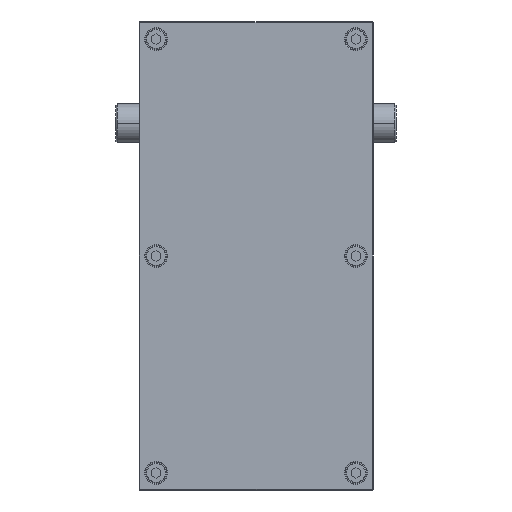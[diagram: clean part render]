
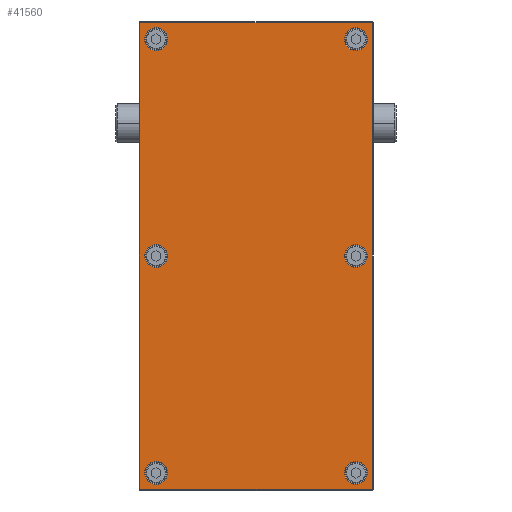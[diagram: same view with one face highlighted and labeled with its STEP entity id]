
A CAD part, front view. The second image highlights one B-rep face of the part: STEP entity #41560.
In plain terms, the highlighted planar face has unit normal (0, -1, 0).
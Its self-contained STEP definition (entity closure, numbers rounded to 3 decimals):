
#40119=CARTESIAN_POINT('',(149.,-9.,-74.));
#40120=DIRECTION('',(0.,-1.,0.));
#40121=DIRECTION('',(0.,0.,-1.));
#40122=AXIS2_PLACEMENT_3D('',#40119,#40120,#40121);
#40124=DIRECTION('',(1.,0.,0.));
#40125=VECTOR('',#40124,298.);
#40126=CARTESIAN_POINT('',(-149.,-9.,
-74.5));
#40127=LINE('',#40126,#40125);
#40128=CARTESIAN_POINT('',(-149.,-9.,-74.));
#40129=DIRECTION('',(0.,-1.,0.));
#40130=DIRECTION('',(-1.,0.,0.));
#40131=AXIS2_PLACEMENT_3D('',#40128,#40129,#40130);
#40133=DIRECTION('',(0.,0.,-1.));
#40134=VECTOR('',#40133,148.);
#40135=CARTESIAN_POINT('',(-149.5,-9.,74.));
#40136=LINE('',#40135,#40134);
#40137=CARTESIAN_POINT('',(-149.,-9.,74.));
#40138=DIRECTION('',(0.,-1.,0.));
#40139=DIRECTION('',(0.,0.,1.));
#40140=AXIS2_PLACEMENT_3D('',#40137,#40138,#40139);
#40142=DIRECTION('',(-1.,0.,0.));
#40143=VECTOR('',#40142,298.);
#40144=CARTESIAN_POINT('',(149.,-9.,
74.5));
#40145=LINE('',#40144,#40143);
#40146=CARTESIAN_POINT('',(149.,-9.,74.));
#40147=DIRECTION('',(0.,-1.,0.));
#40148=DIRECTION('',(1.,0.,0.));
#40149=AXIS2_PLACEMENT_3D('',#40146,#40147,#40148);
#40151=DIRECTION('',(0.,0.,1.));
#40152=VECTOR('',#40151,148.);
#40153=CARTESIAN_POINT('',(149.5,-9.,-74.));
#40154=LINE('',#40153,#40152);
#40155=CARTESIAN_POINT('',(-139.,-9.,-64.));
#40156=DIRECTION('',(0.,1.,0.));
#40157=DIRECTION('',(1.,0.,0.));
#40158=AXIS2_PLACEMENT_3D('',#40155,#40156,#40157);
#40160=CARTESIAN_POINT('',(-139.,-9.,-64.));
#40161=DIRECTION('',(0.,1.,0.));
#40162=DIRECTION('',(-1.,0.,0.));
#40163=AXIS2_PLACEMENT_3D('',#40160,#40161,#40162);
#40165=CARTESIAN_POINT('',(0.,-9.,-64.));
#40166=DIRECTION('',(0.,1.,0.));
#40167=DIRECTION('',(1.,0.,0.));
#40168=AXIS2_PLACEMENT_3D('',#40165,#40166,#40167);
#40170=CARTESIAN_POINT('',(0.,-9.,-64.));
#40171=DIRECTION('',(0.,1.,0.));
#40172=DIRECTION('',(-1.,0.,0.));
#40173=AXIS2_PLACEMENT_3D('',#40170,#40171,#40172);
#40175=CARTESIAN_POINT('',(139.,-9.,-64.));
#40176=DIRECTION('',(0.,1.,0.));
#40177=DIRECTION('',(1.,0.,0.));
#40178=AXIS2_PLACEMENT_3D('',#40175,#40176,#40177);
#40180=CARTESIAN_POINT('',(139.,-9.,-64.));
#40181=DIRECTION('',(0.,1.,0.));
#40182=DIRECTION('',(-1.,0.,0.));
#40183=AXIS2_PLACEMENT_3D('',#40180,#40181,#40182);
#40185=CARTESIAN_POINT('',(139.,-9.,64.));
#40186=DIRECTION('',(0.,1.,0.));
#40187=DIRECTION('',(1.,0.,0.));
#40188=AXIS2_PLACEMENT_3D('',#40185,#40186,#40187);
#40190=CARTESIAN_POINT('',(139.,-9.,64.));
#40191=DIRECTION('',(0.,1.,0.));
#40192=DIRECTION('',(-1.,0.,0.));
#40193=AXIS2_PLACEMENT_3D('',#40190,#40191,#40192);
#40195=CARTESIAN_POINT('',(0.,-9.,64.));
#40196=DIRECTION('',(0.,1.,0.));
#40197=DIRECTION('',(1.,0.,0.));
#40198=AXIS2_PLACEMENT_3D('',#40195,#40196,#40197);
#40200=CARTESIAN_POINT('',(0.,-9.,64.));
#40201=DIRECTION('',(0.,1.,0.));
#40202=DIRECTION('',(-1.,0.,0.));
#40203=AXIS2_PLACEMENT_3D('',#40200,#40201,#40202);
#40205=CARTESIAN_POINT('',(-139.,-9.,64.));
#40206=DIRECTION('',(0.,1.,0.));
#40207=DIRECTION('',(1.,0.,0.));
#40208=AXIS2_PLACEMENT_3D('',#40205,#40206,#40207);
#40210=CARTESIAN_POINT('',(-139.,-9.,64.));
#40211=DIRECTION('',(0.,1.,0.));
#40212=DIRECTION('',(-1.,0.,0.));
#40213=AXIS2_PLACEMENT_3D('',#40210,#40211,#40212);
#41289=CARTESIAN_POINT('',(149.,-9.,-74.5));
#41290=CARTESIAN_POINT('',(149.5,-9.,-74.));
#41291=VERTEX_POINT('',#41289);
#41292=VERTEX_POINT('',#41290);
#41297=CARTESIAN_POINT('',(149.5,-9.,
74.));
#41298=VERTEX_POINT('',#41297);
#41301=CARTESIAN_POINT('',(149.,-9.,74.5));
#41302=VERTEX_POINT('',#41301);
#41305=CARTESIAN_POINT('',(-149.,-9.,
74.5));
#41306=VERTEX_POINT('',#41305);
#41309=CARTESIAN_POINT('',(-149.5,-9.,74.));
#41310=VERTEX_POINT('',#41309);
#41313=CARTESIAN_POINT('',(-149.5,-9.,
-74.));
#41314=VERTEX_POINT('',#41313);
#41317=CARTESIAN_POINT('',(-149.,-9.,-74.5));
#41318=VERTEX_POINT('',#41317);
#41345=CARTESIAN_POINT('',(-131.7,-9.,-64.));
#41346=CARTESIAN_POINT('',(-146.3,-9.,-64.));
#41347=VERTEX_POINT('',#41345);
#41348=VERTEX_POINT('',#41346);
#41361=CARTESIAN_POINT('',(7.3,-9.,-64.));
#41362=CARTESIAN_POINT('',(-7.3,-9.,-64.));
#41363=VERTEX_POINT('',#41361);
#41364=VERTEX_POINT('',#41362);
#41385=CARTESIAN_POINT('',(146.3,-9.,-64.));
#41386=CARTESIAN_POINT('',(131.7,-9.,-64.));
#41387=VERTEX_POINT('',#41385);
#41388=VERTEX_POINT('',#41386);
#41401=CARTESIAN_POINT('',(146.3,-9.,64.));
#41402=CARTESIAN_POINT('',(131.7,-9.,64.));
#41403=VERTEX_POINT('',#41401);
#41404=VERTEX_POINT('',#41402);
#41409=CARTESIAN_POINT('',(7.3,-9.,64.));
#41410=CARTESIAN_POINT('',(-7.3,-9.,64.));
#41411=VERTEX_POINT('',#41409);
#41412=VERTEX_POINT('',#41410);
#41433=CARTESIAN_POINT('',(-131.7,-9.,64.));
#41434=CARTESIAN_POINT('',(-146.3,-9.,64.));
#41435=VERTEX_POINT('',#41433);
#41436=VERTEX_POINT('',#41434);
#41501=CARTESIAN_POINT('',(0.,-9.,0.));
#41502=DIRECTION('',(0.,1.,0.));
#41503=DIRECTION('',(1.,0.,0.));
#41504=AXIS2_PLACEMENT_3D('',#41501,#41502,#41503);
#41505=PLANE('',#41504);
#41507=ORIENTED_EDGE('',*,*,#41506,.F.);
#41509=ORIENTED_EDGE('',*,*,#41508,.F.);
#41511=ORIENTED_EDGE('',*,*,#41510,.F.);
#41513=ORIENTED_EDGE('',*,*,#41512,.F.);
#41515=ORIENTED_EDGE('',*,*,#41514,.F.);
#41517=ORIENTED_EDGE('',*,*,#41516,.F.);
#41519=ORIENTED_EDGE('',*,*,#41518,.F.);
#41521=ORIENTED_EDGE('',*,*,#41520,.F.);
#41522=EDGE_LOOP('',(#41507,#41509,#41511,#41513,#41515,#41517,#41519,#41521));
#41523=FACE_OUTER_BOUND('',#41522,.F.);
#41525=ORIENTED_EDGE('',*,*,#41524,.F.);
#41527=ORIENTED_EDGE('',*,*,#41526,.F.);
#41528=EDGE_LOOP('',(#41525,#41527));
#41529=FACE_BOUND('',#41528,.F.);
#41531=ORIENTED_EDGE('',*,*,#41530,.F.);
#41533=ORIENTED_EDGE('',*,*,#41532,.F.);
#41534=EDGE_LOOP('',(#41531,#41533));
#41535=FACE_BOUND('',#41534,.F.);
#41537=ORIENTED_EDGE('',*,*,#41536,.F.);
#41539=ORIENTED_EDGE('',*,*,#41538,.F.);
#41540=EDGE_LOOP('',(#41537,#41539));
#41541=FACE_BOUND('',#41540,.F.);
#41543=ORIENTED_EDGE('',*,*,#41542,.F.);
#41545=ORIENTED_EDGE('',*,*,#41544,.F.);
#41546=EDGE_LOOP('',(#41543,#41545));
#41547=FACE_BOUND('',#41546,.F.);
#41549=ORIENTED_EDGE('',*,*,#41548,.F.);
#41551=ORIENTED_EDGE('',*,*,#41550,.F.);
#41552=EDGE_LOOP('',(#41549,#41551));
#41553=FACE_BOUND('',#41552,.F.);
#41555=ORIENTED_EDGE('',*,*,#41554,.F.);
#41557=ORIENTED_EDGE('',*,*,#41556,.F.);
#41558=EDGE_LOOP('',(#41555,#41557));
#41559=FACE_BOUND('',#41558,.F.);
#41560=ADVANCED_FACE('',(#41523,#41529,#41535,#41541,#41547,#41553,#41559),
#41505,.F.);
#40123=CIRCLE('',#40122,0.5);
#40132=CIRCLE('',#40131,0.5);
#40141=CIRCLE('',#40140,0.5);
#40150=CIRCLE('',#40149,0.5);
#40159=CIRCLE('',#40158,7.3);
#40164=CIRCLE('',#40163,7.3);
#40169=CIRCLE('',#40168,7.3);
#40174=CIRCLE('',#40173,7.3);
#40179=CIRCLE('',#40178,7.3);
#40184=CIRCLE('',#40183,7.3);
#40189=CIRCLE('',#40188,7.3);
#40194=CIRCLE('',#40193,7.3);
#40199=CIRCLE('',#40198,7.3);
#40204=CIRCLE('',#40203,7.3);
#40209=CIRCLE('',#40208,7.3);
#40214=CIRCLE('',#40213,7.3);
#41506=EDGE_CURVE('',#41291,#41292,#40123,.T.);
#41508=EDGE_CURVE('',#41318,#41291,#40127,.T.);
#41510=EDGE_CURVE('',#41314,#41318,#40132,.T.);
#41512=EDGE_CURVE('',#41310,#41314,#40136,.T.);
#41514=EDGE_CURVE('',#41306,#41310,#40141,.T.);
#41516=EDGE_CURVE('',#41302,#41306,#40145,.T.);
#41518=EDGE_CURVE('',#41298,#41302,#40150,.T.);
#41520=EDGE_CURVE('',#41292,#41298,#40154,.T.);
#41524=EDGE_CURVE('',#41347,#41348,#40159,.T.);
#41526=EDGE_CURVE('',#41348,#41347,#40164,.T.);
#41530=EDGE_CURVE('',#41363,#41364,#40169,.T.);
#41532=EDGE_CURVE('',#41364,#41363,#40174,.T.);
#41536=EDGE_CURVE('',#41387,#41388,#40179,.T.);
#41538=EDGE_CURVE('',#41388,#41387,#40184,.T.);
#41542=EDGE_CURVE('',#41403,#41404,#40189,.T.);
#41544=EDGE_CURVE('',#41404,#41403,#40194,.T.);
#41548=EDGE_CURVE('',#41411,#41412,#40199,.T.);
#41550=EDGE_CURVE('',#41412,#41411,#40204,.T.);
#41554=EDGE_CURVE('',#41435,#41436,#40209,.T.);
#41556=EDGE_CURVE('',#41436,#41435,#40214,.T.);
